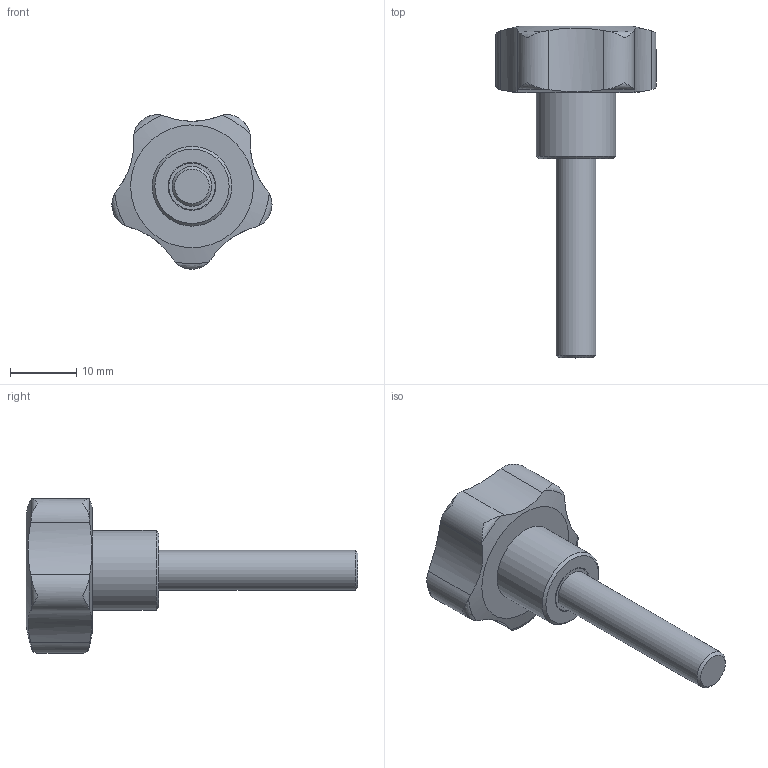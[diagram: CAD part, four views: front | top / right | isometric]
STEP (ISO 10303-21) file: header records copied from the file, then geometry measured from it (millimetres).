
FILE_DESCRIPTION( ( 'STEP AP203' ), '1' );
FILE_NAME( 'C:/Temp/Ganter_Step_05_03_2020/data/2_2/gn_5337_4/gn_5337_4_s/Star knob GN 5337.4-25-M6-30.stp', '2020-03-05T12:09:40', ( 'License CC BY-ND 4.0' ), ( 'CADENAS' ), ' ', 'PARTsolutions', ' ' );
FILE_SCHEMA( ( 'CONFIG_CONTROL_DESIGN' ) );
Length unit declared in the file: millimetre
Products named in the file (1): _Star knob GN 5337.4-25-M6-30
Bounding box: 24.11 x 50 x 23.28 mm (x, y, z)
Volume: 5663 mm3; surface area: 2389.4 mm2
Topology: 1 solids, 1 shells, 34 faces, 95 edges, 66 vertices
Faces by surface type: cylinder 14, torus 10, plane 5, cone 3, bspline 1, sphere 1
Full cylindrical faces by diameter (mm): 6 x1, 7 x1, 7.2 x1, 12 x1
Entity records: 1417 total; most frequent: CARTESIAN_POINT 629, ORIENTED_EDGE 164, DIRECTION 122, EDGE_CURVE 82, VERTEX_POINT 63, AXIS2_PLACEMENT_3D 56, B_SPLINE_CURVE_WITH_KNOTS 50, EDGE_LOOP 46
